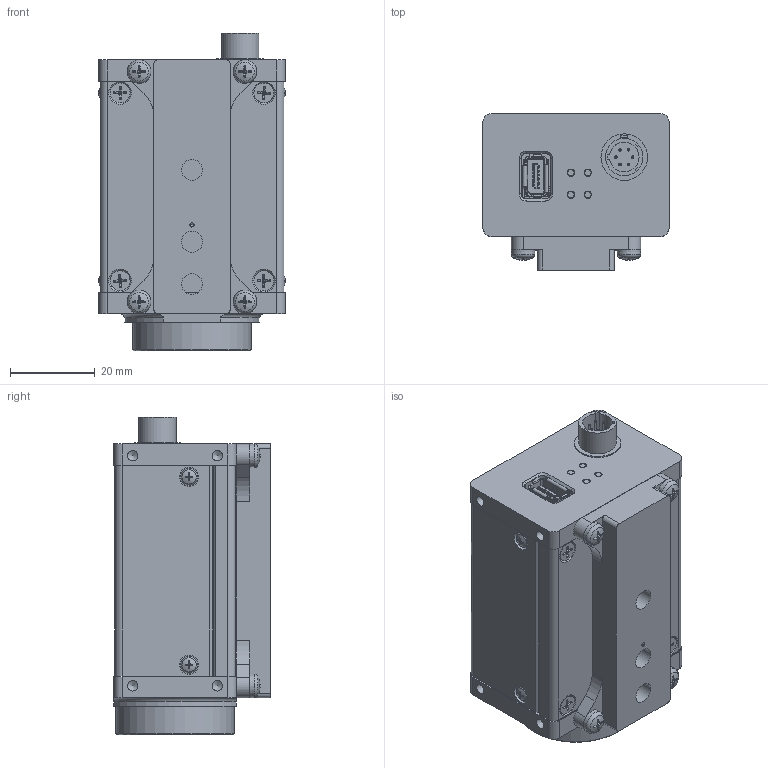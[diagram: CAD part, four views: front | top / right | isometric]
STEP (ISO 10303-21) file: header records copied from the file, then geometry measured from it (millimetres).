
FILE_DESCRIPTION(/* description */ (''),/* implementation_level */ '2;1');
FILE_NAME(/* name */ 'D:\HiDrive\1_Konstruktion\1_KUNDEN\TIS\205-16_12 MP-Camera (Sensor 23x20)\205-16-2_Cam.44x29-Sens.23x20-12MP-GigE3L\IPT und STEP Ableitungen für Kunden\205-16-22-a_Cam.44x29_GigE3L_C-FP_18,3_ER-11,7.stp',/* time_stamp */ '2018-07-20T14:15:09+02:00',/* author */ ('khw'),/* organization */ (''),/* preprocessor_version */ 'ST-DEVELOPER v16.5',/* originating_system */ 'Autodesk Inventor 2017',/* authorisation */ '');
FILE_SCHEMA (('AUTOMOTIVE_DESIGN { 1 0 10303 214 3 1 1 }'));
Products named in the file (4): 205-16-22_Cam.44x29_GigE3L_C-FP_18,3_ER-11,7; 205-16-22_Cam.44x29_GigE3L_C-FP_18,3_ER-11,7_1; 205-16-1-00-04_TripodAdapter; ISO 7045 - M3 x 6 - 4.8 - H
Assembly tree (6 placements, depth 2):
  205-16-22_Cam.44x29_GigE3L_C-FP_18,3_ER-11,7
    205-16-22_Cam.44x29_GigE3L_C-FP_18,3_ER-11,7_1
    205-16-1-00-04_TripodAdapter
    ISO 7045 - M3 x 6 - 4.8 - H  x4
Bounding box: 44.07 x 37 x 75.05 mm (x, y, z)
Volume: 41899.5 mm3; surface area: 32410.4 mm2
Topology: 7 solids, 18 shells, 1798 faces, 4821 edges, 3090 vertices
Faces by surface type: plane 891, cylinder 523, cone 252, torus 95, bspline 22, sphere 15
Full cylindrical faces by diameter (mm): 0.6 x6, 0.8 x6, 0.838 x4, 1 x1, 1.221 x4, 1.567 x8, 1.6 x4, 1.626 x4, 1.7 x4, 1.783 x4, 1.8 x4, 2 x4, 2.013 x4, 2.224 x4, 2.3 x4, 2.459 x16, 2.7 x4, 2.729 x4, 3 x4, 3.3 x4, 4 x4, 4.5 x4, 4.7 x4, 4.917 x2, 4.978 x1, 8 x1, 8.85 x1, 11 x1, 20.2 x1, 21.9 x1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
Entity records: 55322 total; most frequent: CARTESIAN_POINT 11531, DIRECTION 8902, ORIENTED_EDGE 8504, EDGE_CURVE 4252, AXIS2_PLACEMENT_3D 3168, VERTEX_POINT 2836, LINE 2566, VECTOR 2566
